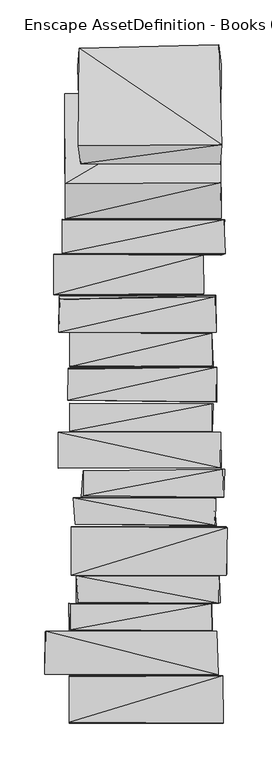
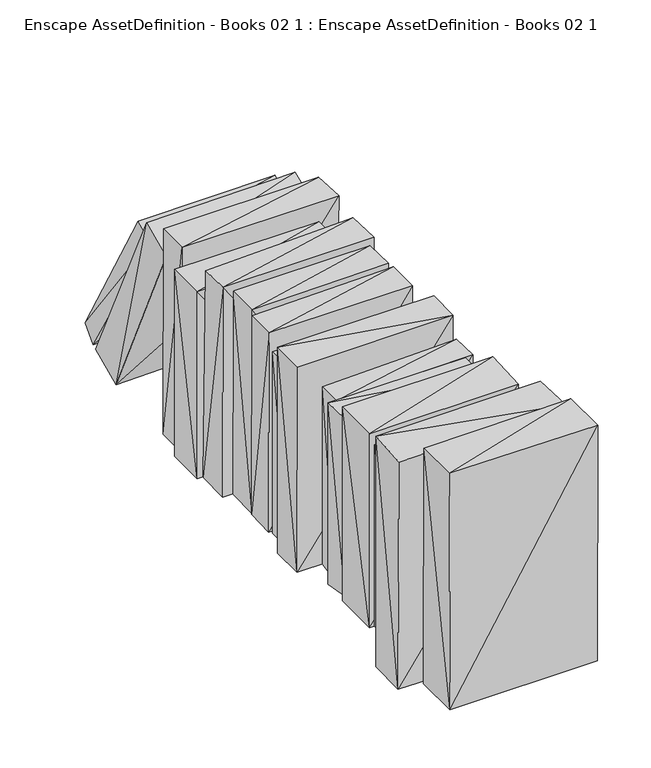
"""IFC4 building model written with IfcOpenShell, lengths in millimetres: geographic element geometry, Enscape AssetDefinition - Books 02 1 : Enscape AssetDefinition - Books 02 1."""

from ifc_helpers import new_model, si_unit, origin, place, context, project, spatial, faceted_brep, source, transform, mapped, element, save


def enscape_assetdefinition_books_02_1_enscape_assetdefinition_e079a25d(model_context):
    return source(origin(), model_context, "Body", "Brep", [
        faceted_brep([(-86.7335573, -93.1737721, -0.0109987), (94.2536518, -94.0786749, 253.3934712), (-86.7345482, -94.6905911, 253.1535029), (95.6744701, -93.9536765, 0.2459704), (94.9045718, -54.4824377, 253.2835007), (-86.7555439, -54.1504771, 253.243506), (-86.7335573, -54.1484803, 0.0449946), (93.33276, -54.5354299, 0.0559933)], [[[0, 1, 2]], [[3, 1, 0]], [[1, 3, 4]], [[5, 1, 4]], [[2, 1, 5]], [[2, 5, 0]], [[0, 5, 6]], [[0, 6, 3]], [[4, 3, 7]], [[3, 6, 7]], [[4, 6, 5]], [[7, 6, 4]]]),
        faceted_brep([(-101.7647386, -322.6101398, 0.7279124), (91.9009298, -325.2098262, 284.114778), (-101.9507125, -324.5879114, 281.3321054), (90.920046, -325.7657886, 0.5569329), (90.6080902, -276.6386867, 0.5179376), (90.6740725, -276.6486704, 284.1087878), (-100.879848, -276.5396833, 283.7128341), (-101.3367921, -277.5225639, 0.5849295)], [[[0, 1, 2]], [[3, 1, 0]], [[1, 4, 5]], [[3, 4, 1]], [[1, 6, 2]], [[5, 6, 1]], [[2, 6, 0]], [[0, 6, 7]], [[0, 7, 3]], [[3, 7, 4]], [[6, 4, 7]], [[5, 4, 6]]]),
        faceted_brep([(92.0759141, -214.7541344, 0.1269847), (-66.4779916, -214.6971375, 223.3380973), (93.3347642, -215.15809, 223.3130932), (-66.50199, -214.3821716, 0.1309842), (92.666842, -245.5624193, 223.2451141), (-64.2652586, -244.221583, 220.6924111), (-66.4569959, -245.7053959, 0.2679677), (94.4366306, -245.0684756, 0.24897)], [[[0, 1, 2]], [[3, 1, 0]], [[4, 1, 5]], [[2, 1, 4]], [[6, 1, 3]], [[5, 1, 6]], [[2, 7, 0]], [[4, 7, 2]], [[7, 3, 0]], [[6, 3, 7]], [[4, 6, 7]], [[5, 6, 4]]]),
        faceted_brep([(-86.0446393, 57.3780909, 259.000808), (89.6152034, 57.3910885, 0.4079509), (89.6072015, 57.400085, 258.9828074), (-86.0446393, 58.0720045, 0.406951), (-85.5556875, 98.0641842, 0.3719552), (89.338243, 98.9420786, 0.398952), (88.8043046, 97.5092575, 258.9558065), (-85.0457549, 94.4376215, 256.7170858)], [[[0, 1, 2]], [[3, 1, 0]], [[1, 4, 5]], [[3, 4, 1]], [[6, 1, 5]], [[2, 1, 6]], [[2, 6, 0]], [[0, 6, 7]], [[4, 0, 7]], [[3, 0, 4]], [[7, 5, 4]], [[6, 5, 7]]]),
        faceted_brep([(-67.9098219, -156.952098, 2.73767), (89.0122801, -158.1929475, 223.3790904), (-67.9098219, -156.952098, 220.6924111), (89.8481756, -158.8878632, 0.0729912), (87.1224999, -127.2086799, 0.1299843), (89.3902332, -127.9915869, 223.3110964), (-70.1135546, -127.3046732, 223.2591063), (-70.1175556, -127.1656752, 0.0939887)], [[[0, 1, 2]], [[3, 1, 0]], [[1, 4, 5]], [[3, 4, 1]], [[6, 1, 5]], [[2, 1, 6]], [[2, 6, 0]], [[0, 6, 7]], [[0, 7, 3]], [[3, 7, 4]], [[7, 5, 4]], [[6, 5, 7]]]),
        faceted_brep([(-82.4640691, 182.8649789, 253.5664439), (99.3580371, 183.552891, 0.0269967), (-82.4610665, 184.2018068, 0.0469943), (98.0441943, 183.6908758, 253.4004748), (94.9745625, 144.0356523, 2.8986509), (-82.4610665, 144.8785514, 0.0449946), (-82.4660659, 146.1043954, 253.3224821), (99.9069735, 145.3364938, 252.9805303)], [[[0, 1, 2]], [[3, 1, 0]], [[1, 3, 4]], [[4, 2, 1]], [[5, 2, 4]], [[6, 2, 5]], [[0, 2, 6]], [[0, 6, 3]], [[4, 3, 7]], [[3, 6, 7]], [[4, 7, 5]], [[5, 7, 6]]]),
        faceted_brep([(-76.3238072, -18.3027945, 0.5239369), (90.0901482, -19.9405979, 246.0003793), (-76.1488229, -18.169811, 245.6064224), (90.6040817, -20.352548, 0.4339477), (90.4321074, 18.5757633, 0.4419468), (90.2591348, 18.5547657, 246.0263669), (-75.8688599, 17.3369125, 0.4349476), (-75.7678747, 16.3780265, 245.3854382)], [[[0, 1, 2]], [[3, 1, 0]], [[1, 4, 5]], [[3, 4, 1]], [[5, 2, 1]], [[6, 2, 7]], [[0, 2, 6]], [[7, 2, 5]], [[0, 6, 3]], [[3, 6, 4]], [[7, 4, 6]], [[5, 4, 7]]]),
        faceted_brep([(94.3746269, 245.3394383, 192.9327697), (-64.7631958, 355.2272022, 0.1169859), (95.5584943, 356.949985, 0.0109987), (-61.8175529, 246.1683601, 191.5359199), (-63.0524009, 375.1968145, 14.4962538), (92.7038267, 379.1533113, 12.9524404), (95.8394557, 267.3368156, 205.9391886), (-64.2242655, 265.9799755, 206.098184)], [[[0, 1, 2]], [[3, 1, 0]], [[1, 4, 2]], [[3, 4, 1]], [[5, 0, 2]], [[2, 4, 5]], [[6, 0, 5]], [[6, 3, 0]], [[7, 3, 6]], [[7, 4, 3]], [[6, 4, 7]], [[5, 4, 6]]]),
        faceted_brep([(97.7042317, -379.6402812, 290.187031), (-74.2670521, -379.6342611, 0.4089507), (97.6782367, -379.5902729, 0.4199494), (-74.3020475, -378.4174025, 290.187031), (-74.2540583, -326.4336884, 0.4119504), (-74.2960498, -327.6455402, 290.2000546), (97.4402651, -326.4656961, 0.4169498), (97.4262655, -326.4196813, 290.1900411)], [[[0, 1, 2]], [[3, 1, 0]], [[4, 2, 1]], [[5, 1, 3]], [[4, 1, 5]], [[6, 2, 4]], [[6, 0, 2]], [[7, 3, 0]], [[7, 0, 6]], [[5, 3, 7]], [[7, 4, 5]], [[6, 4, 7]]]),
        faceted_brep([(95.451504, 185.3586584, 216.6998982), (-79.4284344, 284.0707898, -0.4589447), (94.5866033, 286.8214548, 0.049994), (-78.9654851, 184.3567938, 217.174843), (94.3466276, 325.5368173, 18.0908199), (-79.8153877, 324.5278895, 18.4077825), (-78.8545012, 223.582074, 234.9026948), (94.6915895, 224.6899456, 235.9615713)], [[[0, 1, 2]], [[3, 1, 0]], [[4, 1, 5]], [[2, 1, 4]], [[6, 1, 3]], [[5, 1, 6]], [[4, 0, 2]], [[7, 0, 4]], [[7, 3, 0]], [[6, 3, 7]], [[4, 6, 7]], [[5, 6, 4]]]),
        faceted_brep([(101.0188311, -214.016214, 238.9362156), (-72.3022893, -214.016214, 0.099988), (101.6827524, -212.8083557, 0.0289965), (-72.3022893, -214.016214, 238.9362156), (-72.3022893, -159.7007662, 0.0989881), (-72.3022893, -159.7007662, 238.9362156), (101.0188311, -159.7007662, 0.0989881), (101.9827127, -161.0326022, 239.9910986)], [[[0, 1, 2]], [[3, 1, 0]], [[4, 2, 1]], [[5, 1, 3]], [[4, 1, 5]], [[6, 2, 4]], [[6, 0, 2]], [[7, 3, 0]], [[7, 0, 6]], [[5, 3, 7]], [[6, 5, 7]], [[4, 5, 6]]]),
        faceted_brep([(-91.9139311, 99.3750244, 230.0052941), (72.8342235, 99.3730351, 0.0679918), (75.8618638, 100.5778834, 230.7122052), (-91.9139311, 99.3750244, 0.0679918), (72.8352293, 144.8195577, 0.0679918), (-91.9139311, 144.817546, 0.0679918), (75.6078884, 143.7306851, 230.8701873), (-91.9139311, 144.817546, 230.0052941)], [[[0, 1, 2]], [[3, 1, 0]], [[1, 4, 2]], [[1, 5, 4]], [[3, 5, 1]], [[2, 4, 6]], [[2, 6, 0]], [[0, 7, 3]], [[0, 6, 7]], [[3, 7, 5]], [[5, 7, 4]], [[4, 7, 6]]]),
        faceted_brep([(-74.1870627, 19.1386938, 250.6018281), (86.4725858, 19.7886154, 0.3099627), (85.4277164, 20.2135649, 250.9107888), (-74.20706, 18.7937375, 0.0869895), (84.8747715, 56.3432164, 0.2049753), (-74.1830617, 57.6380603, 0.1179858), (84.6647993, 56.6271804, 250.6158054), (-74.1950646, 57.3830865, 250.6048083)], [[[0, 1, 2]], [[3, 1, 0]], [[1, 4, 2]], [[1, 5, 4]], [[3, 5, 1]], [[2, 4, 6]], [[2, 6, 0]], [[0, 7, 3]], [[0, 6, 7]], [[3, 7, 5]], [[6, 5, 7]], [[4, 5, 6]]]),
        faceted_brep([(85.4447037, -52.9966168, 223.397091), (-73.7471133, -53.0626103, 0.1089869), (85.6246874, -52.9786199, 0.1019877), (-73.7351179, -53.0306101, 223.0021358), (-73.7421215, -21.8093731, 0.0479942), (-73.7441182, -21.7813775, 223.2491076), (86.6925493, -22.554284, 0.0719913), (85.4647011, -22.3973021, 223.1421173)], [[[0, 1, 2]], [[3, 1, 0]], [[4, 2, 1]], [[5, 1, 3]], [[4, 1, 5]], [[6, 2, 4]], [[6, 0, 2]], [[7, 3, 0]], [[7, 0, 6]], [[5, 3, 7]], [[7, 4, 5]], [[6, 4, 7]]]),
        faceted_brep([(98.2571691, -126.8607229, 223.1901139), (-61.256621, -126.765728, 0.364956), (97.9322046, -126.7017275, 0.0769907), (-59.0578839, -125.2699047, 220.6874192), (-59.0548851, -97.0093161, 2.73767), (-59.0578839, -97.0093161, 220.6874192), (95.8864465, -96.862331, 3.5295747), (99.4570255, -95.8164558, 0.1319841), (97.3342732, -95.3845158, 223.2201099)], [[[0, 1, 2]], [[3, 1, 0]], [[4, 2, 1]], [[5, 1, 3]], [[4, 1, 5]], [[6, 2, 4]], [[7, 0, 2]], [[7, 2, 6]], [[8, 3, 0]], [[8, 0, 7]], [[5, 3, 8]], [[5, 6, 4]], [[8, 6, 5]], [[6, 8, 7]]]),
        faceted_brep([(84.6398026, -275.9747505, 250.2198517), (-74.5720193, -276.5886784, 0.3449584), (85.2287337, -275.6827772, 0.2299723), (-72.7752298, -275.0788629, 247.6481646), (-74.9669671, -245.3124523, 0.1799783), (-72.7702379, -246.8192726, 247.6541698), (84.6088082, -246.7182875, 0.1919769), (84.4198316, -245.9553629, 250.2258718)], [[[0, 1, 2]], [[3, 1, 0]], [[4, 2, 1]], [[5, 1, 3]], [[4, 1, 5]], [[6, 0, 2]], [[6, 2, 4]], [[7, 3, 0]], [[7, 0, 6]], [[5, 3, 7]], [[7, 4, 5]], [[6, 4, 7]]]),
    ])


if __name__ == "__main__":
    model = new_model("IFC4")
    model_context = context("Model", 3, world=origin())
    ifc_project = project(units=[si_unit("LENGTHUNIT", "METRE", prefix="MILLI")], contexts=[model_context])
    site = spatial("IfcSite", under=ifc_project)
    building = spatial("IfcBuilding", under=site)
    placement = place(None, origin())
    enscape_assetdefinition_books_02_1_enscape_assetdefinition_shape = enscape_assetdefinition_books_02_1_enscape_assetdefinition_e079a25d(model_context)
    element("IfcGeographicElement", 1, ObjectType="Enscape AssetDefinition - Books 02 1 : Enscape AssetDefinition - Books 02 1", at=placement, inside=building, context=model_context, shape_type="MappedRepresentation", body=[
        mapped(enscape_assetdefinition_books_02_1_enscape_assetdefinition_shape, transform((0.0, 0.0, 0.0), x_axis=(1.0, 0.0, 0.0), y_axis=(0.0, 1.0, 0.0), z_axis=(0.0, 0.0, 1.0))),
    ])
    save(model, "model.ifc")
